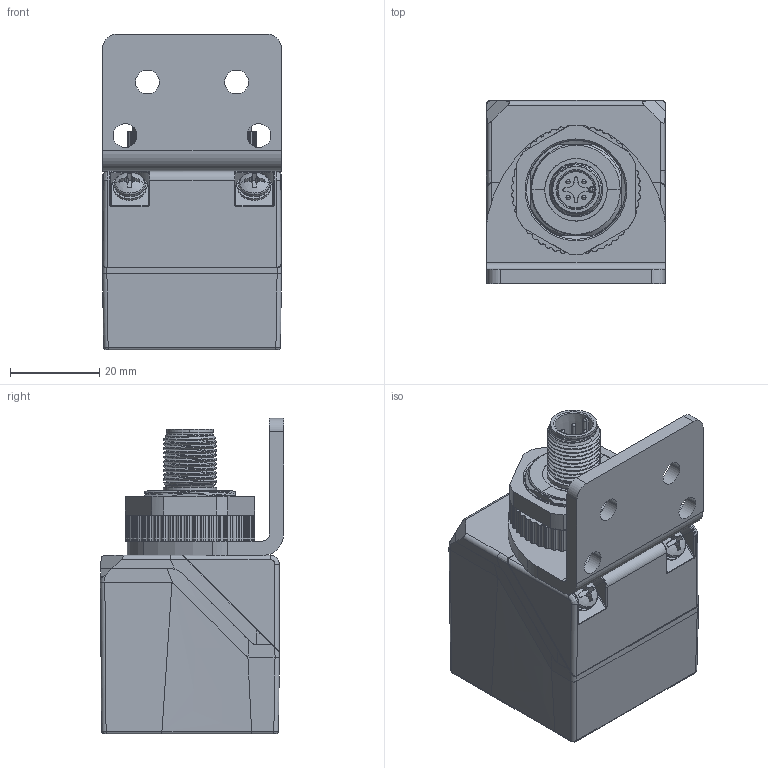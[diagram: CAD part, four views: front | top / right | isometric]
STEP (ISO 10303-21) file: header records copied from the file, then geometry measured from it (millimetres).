
FILE_DESCRIPTION((''),'2;1');
FILE_NAME('VERSACUBE_WITHOUT_BRACKET_1','2013-01-09T',('jjwang'),('ROCKWELL AUTOMATION'),'PRO/ENGINEER BY PARAMETRIC TECHNOLOGY CORPORATION, 2010140','PRO/ENGINEER BY PARAMETRIC TECHNOLOGY CORPORATION, 2010140','');
FILE_SCHEMA(('CONFIG_CONTROL_DESIGN'));
Length unit declared in the file: millimetre
Products named in the file (1): VERSACUBE_WITHOUT_BRACKET_1
Bounding box: 40.16 x 41.08 x 70.7 mm (x, y, z)
Surface area: 18906.6 mm2 (no closed solid volume)
Topology: 0 solids, 19 shells, 735 faces, 2573 edges, 1848 vertices
Faces by surface type: cylinder 348, plane 275, bspline 49, cone 34, torus 16, sphere 13
Entity records: 41409 total; most frequent: CARTESIAN_POINT 19902, DIRECTION 4401, ORIENTED_EDGE 4365, EDGE_CURVE 2564, VERTEX_POINT 1848, AXIS2_PLACEMENT_3D 1668, VECTOR 1065, LINE 1065
